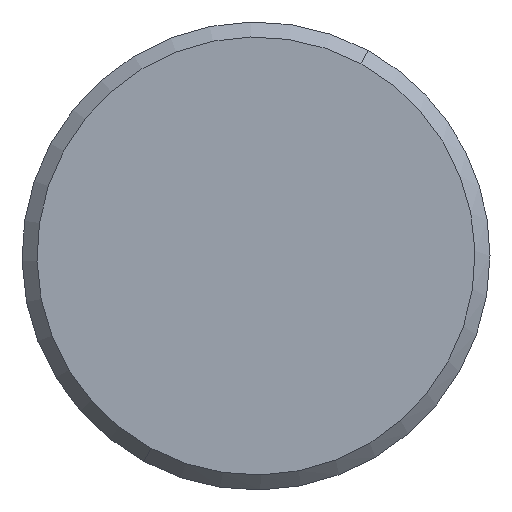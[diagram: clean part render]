
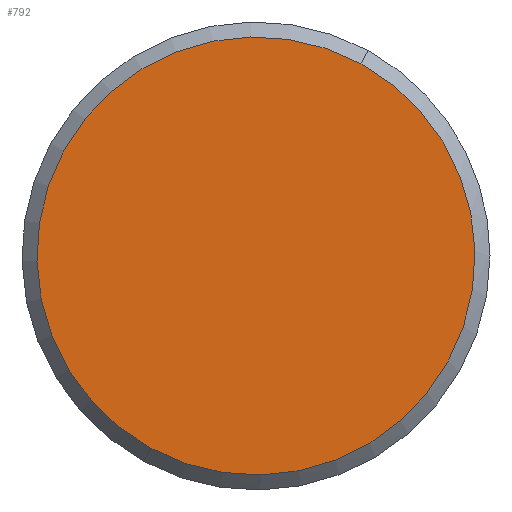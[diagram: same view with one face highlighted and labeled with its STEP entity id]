
A CAD part, front view. The second image highlights one B-rep face of the part: STEP entity #792.
In plain terms, the highlighted planar face has unit normal (0, -1, 0).
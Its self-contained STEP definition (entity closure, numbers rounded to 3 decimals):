
#52 = PLANE ( 'NONE',  #96 ) ;
#54 = VERTEX_POINT ( 'NONE', #193 ) ;
#56 = ORIENTED_EDGE ( 'NONE', *, *, #789, .F. ) ;
#59 = DIRECTION ( 'NONE',  ( 0., 1., 0. ) ) ;
#96 = AXIS2_PLACEMENT_3D ( 'NONE', #351, #908, #116 ) ;
#116 = DIRECTION ( 'NONE',  ( 1., 0., 0. ) ) ;
#129 = CARTESIAN_POINT ( 'NONE',  ( 0., -247.8, 0. ) ) ;
#181 = ORIENTED_EDGE ( 'NONE', *, *, #883, .F. ) ;
#183 = CARTESIAN_POINT ( 'NONE',  ( -5.609, -247.8, -10.268 ) ) ;
#189 = CIRCLE ( 'NONE', #813, 11.7 ) ;
#193 = CARTESIAN_POINT ( 'NONE',  ( 5.609, -247.8, 10.268 ) ) ;
#239 = FACE_OUTER_BOUND ( 'NONE', #458, .T. ) ;
#246 = AXIS2_PLACEMENT_3D ( 'NONE', #129, #767, #276 ) ;
#276 = DIRECTION ( 'NONE',  ( 1., 0., 0. ) ) ;
#351 = CARTESIAN_POINT ( 'NONE',  ( 0., -247.8, 12.5 ) ) ;
#458 = EDGE_LOOP ( 'NONE', ( #181, #56 ) ) ;
#493 = CARTESIAN_POINT ( 'NONE',  ( 0., -247.8, 0. ) ) ;
#532 = CIRCLE ( 'NONE', #246, 11.7 ) ;
#604 = VERTEX_POINT ( 'NONE', #183 ) ;
#644 = DIRECTION ( 'NONE',  ( 1., 0., 0. ) ) ;
#767 = DIRECTION ( 'NONE',  ( 0., 1., 0. ) ) ;
#789 = EDGE_CURVE ( 'NONE', #604, #54, #532, .T. ) ;
#792 = ADVANCED_FACE ( 'NONE', ( #239 ), #52, .F. ) ;
#813 = AXIS2_PLACEMENT_3D ( 'NONE', #493, #59, #644 ) ;
#883 = EDGE_CURVE ( 'NONE', #54, #604, #189, .T. ) ;
#908 = DIRECTION ( 'NONE',  ( 0., 1., 0. ) ) ;
